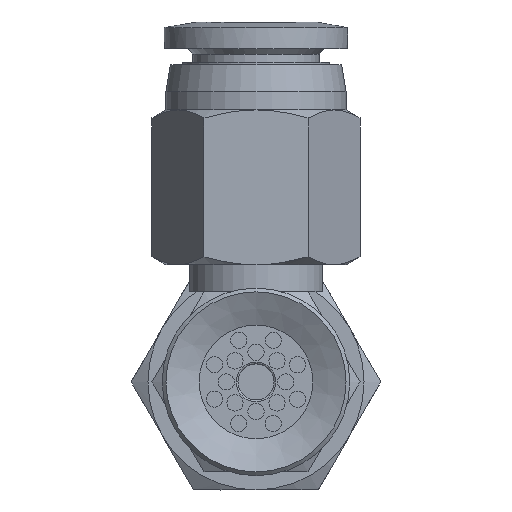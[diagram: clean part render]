
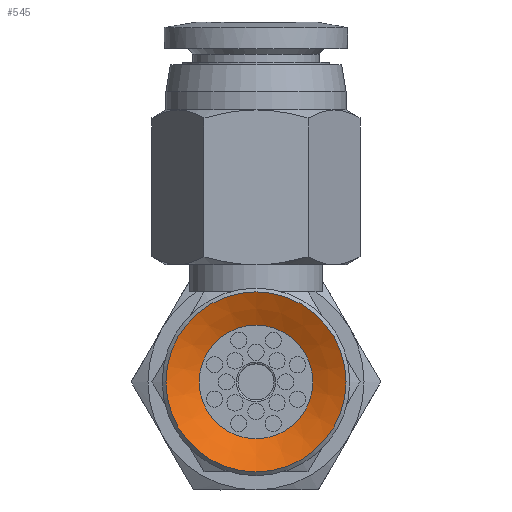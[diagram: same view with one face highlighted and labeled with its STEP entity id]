
A CAD part, front view. The second image highlights one B-rep face of the part: STEP entity #545.
In plain terms, the highlighted conical face has half-angle 64 degrees and reference radius 5 mm.
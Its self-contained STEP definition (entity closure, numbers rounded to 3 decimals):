
#545=ADVANCED_FACE('',(#881,#882),#883,.F.);
#881=FACE_BOUND('',#1370,.T.);
#882=FACE_OUTER_BOUND('',#1371,.T.);
#883=CONICAL_SURFACE('',#1372,5.0,1.117);
#1370=EDGE_LOOP('',(#2445));
#1371=EDGE_LOOP('',(#2446));
#1372=AXIS2_PLACEMENT_3D('',#2447,#2448,#2449);
#2445=ORIENTED_EDGE('',*,*,#3155,.T.);
#2446=ORIENTED_EDGE('',*,*,#3156,.F.);
#2447=CARTESIAN_POINT('',(0.0,0.,0.));
#2448=DIRECTION('',(0.0,0.,-1.0));
#2449=DIRECTION('',(0.0,1.0,0.));
#3155=EDGE_CURVE('',#3577,#3577,#3578,.T.);
#3156=EDGE_CURVE('',#3579,#3579,#3580,.T.);
#3577=VERTEX_POINT('',#4479);
#3578=CIRCLE('',#4480,3.155);
#3579=VERTEX_POINT('',#4481);
#3580=CIRCLE('',#4482,5.0);
#4479=CARTESIAN_POINT('',(0.0,-3.155,0.9));
#4480=AXIS2_PLACEMENT_3D('',#5296,#5297,#5298);
#4481=CARTESIAN_POINT('',(0.0,-5.0,0.));
#4482=AXIS2_PLACEMENT_3D('',#5299,#5300,#5301);
#5296=CARTESIAN_POINT('',(0.0,0.,0.9));
#5297=DIRECTION('',(0.0,0.,1.0));
#5298=DIRECTION('',(0.0,-1.0,0.));
#5299=CARTESIAN_POINT('',(0.0,0.,0.));
#5300=DIRECTION('',(0.0,0.,1.0));
#5301=DIRECTION('',(0.0,-1.0,0.));
